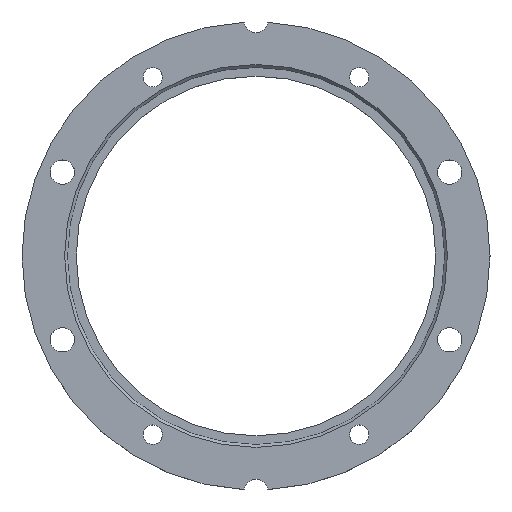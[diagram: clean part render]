
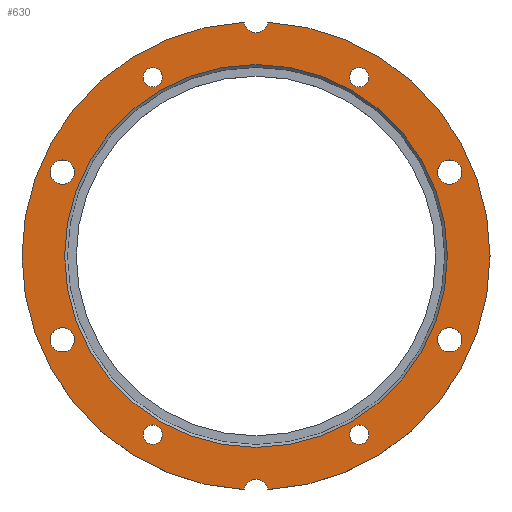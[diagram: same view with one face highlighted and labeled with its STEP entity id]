
A CAD part, top view. The second image highlights one B-rep face of the part: STEP entity #630.
In plain terms, the highlighted planar face has unit normal (0, 0, 1).
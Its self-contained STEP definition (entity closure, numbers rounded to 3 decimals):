
#126=PLANE('',#690);
#180=CIRCLE('',#674,1.75);
#182=CIRCLE('',#677,1.75);
#194=CIRCLE('',#691,1.75);
#195=CIRCLE('',#692,1.75);
#196=CIRCLE('',#693,2.15);
#197=CIRCLE('',#694,42.3);
#198=CIRCLE('',#695,2.15);
#199=CIRCLE('',#696,2.2);
#200=CIRCLE('',#697,2.2);
#201=CIRCLE('',#698,2.2);
#202=CIRCLE('',#699,2.2);
#203=CIRCLE('',#700,34.6);
#231=VERTEX_POINT('',#811);
#233=VERTEX_POINT('',#816);
#246=VERTEX_POINT('',#843);
#247=VERTEX_POINT('',#845);
#248=VERTEX_POINT('',#847);
#249=VERTEX_POINT('',#848);
#250=VERTEX_POINT('',#850);
#251=VERTEX_POINT('',#852);
#252=VERTEX_POINT('',#854);
#253=VERTEX_POINT('',#856);
#254=VERTEX_POINT('',#858);
#255=VERTEX_POINT('',#860);
#256=VERTEX_POINT('',#862);
#304=EDGE_CURVE('',#231,#231,#180,.T.);
#306=EDGE_CURVE('',#233,#233,#182,.T.);
#319=EDGE_CURVE('',#246,#246,#194,.T.);
#320=EDGE_CURVE('',#247,#247,#195,.T.);
#321=EDGE_CURVE('',#248,#249,#196,.T.);
#322=EDGE_CURVE('',#250,#249,#197,.T.);
#323=EDGE_CURVE('',#250,#251,#198,.T.);
#324=EDGE_CURVE('',#248,#251,#197,.T.);
#325=EDGE_CURVE('',#252,#252,#199,.T.);
#326=EDGE_CURVE('',#253,#253,#200,.T.);
#327=EDGE_CURVE('',#254,#254,#201,.T.);
#328=EDGE_CURVE('',#255,#255,#202,.T.);
#329=EDGE_CURVE('',#256,#256,#203,.T.);
#426=ORIENTED_EDGE('',*,*,#319,.T.);
#427=ORIENTED_EDGE('',*,*,#320,.T.);
#428=ORIENTED_EDGE('',*,*,#321,.T.);
#429=ORIENTED_EDGE('',*,*,#322,.F.);
#430=ORIENTED_EDGE('',*,*,#323,.T.);
#431=ORIENTED_EDGE('',*,*,#324,.F.);
#432=ORIENTED_EDGE('',*,*,#325,.T.);
#433=ORIENTED_EDGE('',*,*,#326,.T.);
#434=ORIENTED_EDGE('',*,*,#327,.T.);
#435=ORIENTED_EDGE('',*,*,#328,.T.);
#436=ORIENTED_EDGE('',*,*,#329,.F.);
#437=ORIENTED_EDGE('',*,*,#306,.T.);
#438=ORIENTED_EDGE('',*,*,#304,.T.);
#509=EDGE_LOOP('',(#426));
#510=EDGE_LOOP('',(#427));
#511=EDGE_LOOP('',(#428,#429,#430,#431));
#512=EDGE_LOOP('',(#432));
#513=EDGE_LOOP('',(#433));
#514=EDGE_LOOP('',(#434));
#515=EDGE_LOOP('',(#435));
#516=EDGE_LOOP('',(#436));
#517=EDGE_LOOP('',(#437));
#518=EDGE_LOOP('',(#438));
#577=FACE_BOUND('',#509,.T.);
#578=FACE_BOUND('',#510,.T.);
#579=FACE_BOUND('',#511,.T.);
#580=FACE_BOUND('',#512,.T.);
#581=FACE_BOUND('',#513,.T.);
#582=FACE_BOUND('',#514,.T.);
#583=FACE_BOUND('',#515,.T.);
#584=FACE_BOUND('',#516,.T.);
#585=FACE_BOUND('',#517,.T.);
#586=FACE_BOUND('',#518,.T.);
#630=ADVANCED_FACE('',(#577,#578,#579,#580,#581,#582,#583,#584,#585,#586),
#126,.T.);
#674=AXIS2_PLACEMENT_3D('',#810,#952,#953);
#677=AXIS2_PLACEMENT_3D('',#815,#958,#959);
#690=AXIS2_PLACEMENT_3D('',#841,#983,$);
#691=AXIS2_PLACEMENT_3D('',#842,#984,#985);
#692=AXIS2_PLACEMENT_3D('',#844,#986,#987);
#693=AXIS2_PLACEMENT_3D('',#846,#988,#989);
#694=AXIS2_PLACEMENT_3D('',#849,#990,#991);
#695=AXIS2_PLACEMENT_3D('',#851,#992,#993);
#696=AXIS2_PLACEMENT_3D('',#853,#994,#995);
#697=AXIS2_PLACEMENT_3D('',#855,#996,#997);
#698=AXIS2_PLACEMENT_3D('',#857,#998,#999);
#699=AXIS2_PLACEMENT_3D('',#859,#1000,#1001);
#700=AXIS2_PLACEMENT_3D('',#861,#1002,#1003);
#810=CARTESIAN_POINT('',(18.65,-32.303,9.5));
#811=CARTESIAN_POINT('',(16.9,-32.303,9.5));
#815=CARTESIAN_POINT('',(-18.65,-32.303,9.5));
#816=CARTESIAN_POINT('',(-20.4,-32.303,9.5));
#841=CARTESIAN_POINT('',(0.,0.,9.5));
#842=CARTESIAN_POINT('',(18.65,32.303,9.5));
#843=CARTESIAN_POINT('',(16.9,32.303,9.5));
#844=CARTESIAN_POINT('',(-18.65,32.303,9.5));
#845=CARTESIAN_POINT('',(-20.4,32.303,9.5));
#846=CARTESIAN_POINT('',(0.,-42.5,9.5));
#847=CARTESIAN_POINT('',(-2.135,-42.246,9.5));
#848=CARTESIAN_POINT('',(2.135,-42.246,9.5));
#849=CARTESIAN_POINT('',(0.,0.,9.5));
#850=CARTESIAN_POINT('',(2.135,42.246,9.5));
#851=CARTESIAN_POINT('',(0.,42.5,9.5));
#852=CARTESIAN_POINT('',(-2.135,42.246,9.5));
#853=CARTESIAN_POINT('',(35.,15.155,9.5));
#854=CARTESIAN_POINT('',(32.8,15.155,9.5));
#855=CARTESIAN_POINT('',(35.,-15.155,9.5));
#856=CARTESIAN_POINT('',(32.8,-15.155,9.5));
#857=CARTESIAN_POINT('',(-35.,15.155,9.5));
#858=CARTESIAN_POINT('',(-32.8,15.155,9.5));
#859=CARTESIAN_POINT('',(-35.,-15.155,9.5));
#860=CARTESIAN_POINT('',(-32.8,-15.155,9.5));
#861=CARTESIAN_POINT('',(0.,0.,9.5));
#862=CARTESIAN_POINT('',(34.6,0.,9.5));
#952=DIRECTION('',(0.,0.,-1.));
#953=DIRECTION('',(1.75,0.,0.));
#958=DIRECTION('',(0.,0.,-1.));
#959=DIRECTION('',(1.75,0.,0.));
#983=DIRECTION('',(0.,0.,1.));
#984=DIRECTION('',(0.,0.,-1.));
#985=DIRECTION('',(1.75,0.,0.));
#986=DIRECTION('',(0.,0.,-1.));
#987=DIRECTION('',(1.75,0.,0.));
#988=DIRECTION('',(0.,0.,-1.));
#989=DIRECTION('',(-2.15,0.,0.));
#990=DIRECTION('',(0.,0.,-1.));
#991=DIRECTION('',(42.3,0.,0.));
#992=DIRECTION('',(0.,0.,-1.));
#993=DIRECTION('',(2.15,0.,0.));
#994=DIRECTION('',(0.,0.,-1.));
#995=DIRECTION('',(2.2,0.,0.));
#996=DIRECTION('',(0.,0.,-1.));
#997=DIRECTION('',(2.2,0.,0.));
#998=DIRECTION('',(0.,0.,-1.));
#999=DIRECTION('',(-2.2,0.,0.));
#1000=DIRECTION('',(0.,0.,-1.));
#1001=DIRECTION('',(-2.2,0.,0.));
#1002=DIRECTION('',(0.,0.,1.));
#1003=DIRECTION('',(-34.6,0.,0.));
